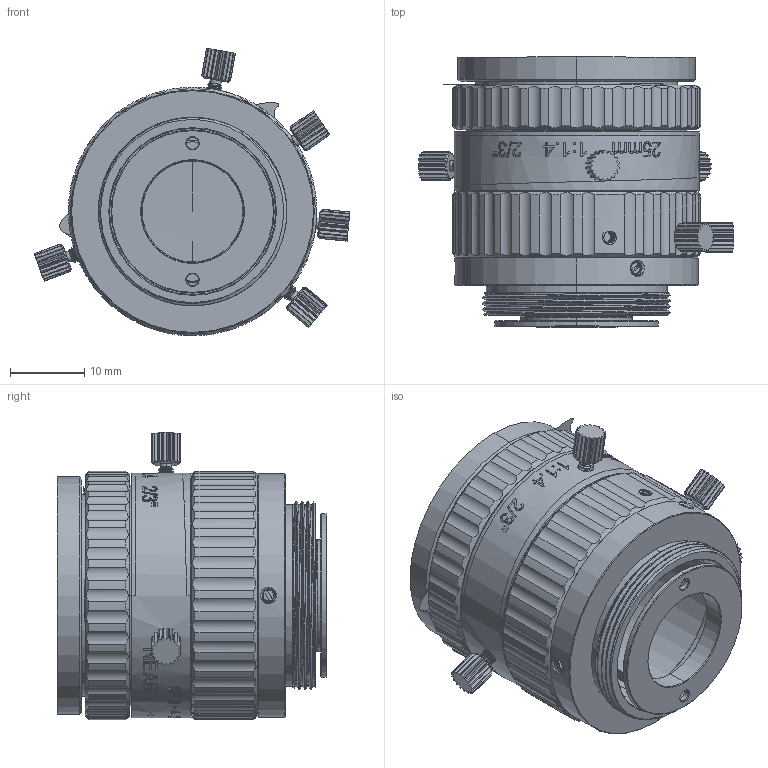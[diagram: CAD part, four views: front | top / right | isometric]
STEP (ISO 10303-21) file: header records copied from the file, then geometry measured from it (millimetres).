
FILE_DESCRIPTION((''),'2;1');
FILE_NAME('FA2502_ASM_ASM','2018-09-27T',('Administrator'),(''),'PRO/ENGINEER BY PARAMETRIC TECHNOLOGY CORPORATION, 2010370','PRO/ENGINEER BY PARAMETRIC TECHNOLOGY CORPORATION, 2010370','');
FILE_SCHEMA(('CONFIG_CONTROL_DESIGN'));
Products named in the file (17): MSBR-38; MSBR-37; MSBR-36; MSBR-35; MSBR-34; MSBR-33; MSBR-32; MSBR-28; MSBR-27; MSBR-26; MSBR-25; MSBR-18; MSBR-11; MSBR-9; MSBR-6; MSBR-3; FA2502_ASM_ASM
Assembly tree (16 placements, depth 2):
  FA2502_ASM_ASM
    MSBR-38
    MSBR-37
    MSBR-36
    MSBR-35
    MSBR-34
    MSBR-33
    MSBR-32
    MSBR-28
    MSBR-27
    MSBR-26
    MSBR-25
    MSBR-18
    MSBR-11
    MSBR-9
    MSBR-6
    MSBR-3
Bounding box: 42.54 x 36.35 x 38.76 mm (x, y, z)
Volume: 12443.1 mm3; surface area: 19446 mm2
Topology: 16 solids, 16 shells, 1843 faces, 5027 edges, 3281 vertices
Faces by surface type: cylinder 579, bspline 520, plane 483, cone 252, extrusion 5, sphere 4
Entity records: 104797 total; most frequent: CARTESIAN_POINT 62062, ORIENTED_EDGE 9990, DIRECTION 7070, EDGE_CURVE 4995, VERTEX_POINT 3267, AXIS2_PLACEMENT_3D 2584, EDGE_LOOP 1966, VECTOR 1902
